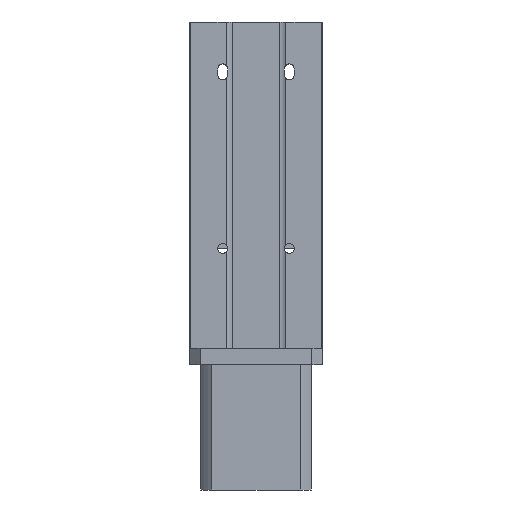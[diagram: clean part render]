
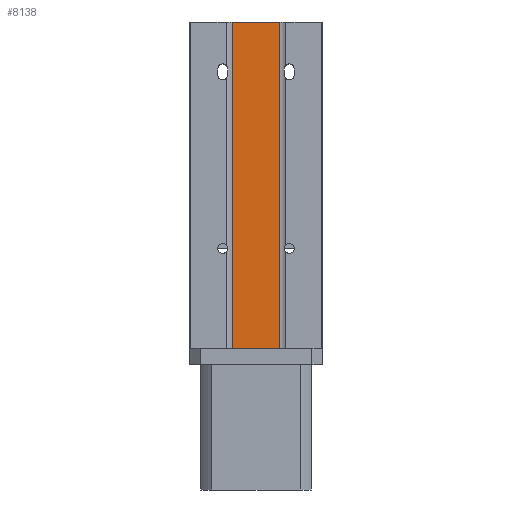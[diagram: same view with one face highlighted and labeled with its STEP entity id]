
A CAD part, front view. The second image highlights one B-rep face of the part: STEP entity #8138.
In plain terms, the highlighted planar face has unit normal (0, -1, 0).
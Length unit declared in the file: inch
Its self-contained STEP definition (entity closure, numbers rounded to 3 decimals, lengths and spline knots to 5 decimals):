
#520 = CARTESIAN_POINT ( 'NONE',  ( 0.36, 0.03, 0. ) ) ;
#1437 = PLANE ( 'NONE',  #11029 ) ;
#2236 = EDGE_CURVE ( 'NONE', #11339, #3104, #11034, .T. ) ;
#2248 = CARTESIAN_POINT ( 'NONE',  ( 0.36, 0.03, 4.90425 ) ) ;
#2389 = VECTOR ( 'NONE', #3702, 39.37008 ) ;
#2898 = EDGE_CURVE ( 'NONE', #10804, #11339, #10158, .T. ) ;
#3104 = VERTEX_POINT ( 'NONE', #520 ) ;
#3440 = ORIENTED_EDGE ( 'NONE', *, *, #5344, .F. ) ;
#3550 = DIRECTION ( 'NONE',  ( -1., 0., 0. ) ) ;
#3702 = DIRECTION ( 'NONE',  ( 1., 0., 0. ) ) ;
#5344 = EDGE_CURVE ( 'NONE', #7740, #3104, #7610, .T. ) ;
#5393 = EDGE_CURVE ( 'NONE', #10804, #7740, #12754, .T. ) ;
#6390 = VECTOR ( 'NONE', #10614, 39.37008 ) ;
#7026 = CARTESIAN_POINT ( 'NONE',  ( -0.36, 0.03, 0. ) ) ;
#7610 = LINE ( 'NONE', #2248, #8809 ) ;
#7619 = FACE_OUTER_BOUND ( 'NONE', #13201, .T. ) ;
#7740 = VERTEX_POINT ( 'NONE', #12163 ) ;
#8138 = ADVANCED_FACE ( 'NONE', ( #7619 ), #1437, .F. ) ;
#8470 = ORIENTED_EDGE ( 'NONE', *, *, #2898, .T. ) ;
#8713 = CARTESIAN_POINT ( 'NONE',  ( -0.36, 0.03, 4.90425 ) ) ;
#8809 = VECTOR ( 'NONE', #9784, 39.37008 ) ;
#8929 = VECTOR ( 'NONE', #9006, 39.37008 ) ;
#8950 = CARTESIAN_POINT ( 'NONE',  ( -0.36, 0.03, 0. ) ) ;
#9006 = DIRECTION ( 'NONE',  ( 0., 0., -1. ) ) ;
#9784 = DIRECTION ( 'NONE',  ( 0., 0., -1. ) ) ;
#9959 = ORIENTED_EDGE ( 'NONE', *, *, #2236, .T. ) ;
#10158 = LINE ( 'NONE', #13117, #8929 ) ;
#10614 = DIRECTION ( 'NONE',  ( 1., 0., 0. ) ) ;
#10804 = VERTEX_POINT ( 'NONE', #11745 ) ;
#11029 = AXIS2_PLACEMENT_3D ( 'NONE', #8713, #12909, #3550 ) ;
#11034 = LINE ( 'NONE', #7026, #2389 ) ;
#11339 = VERTEX_POINT ( 'NONE', #8950 ) ;
#11647 = CARTESIAN_POINT ( 'NONE',  ( -0.36, 0.03, 4.90425 ) ) ;
#11745 = CARTESIAN_POINT ( 'NONE',  ( -0.36, 0.03, 4.90425 ) ) ;
#12163 = CARTESIAN_POINT ( 'NONE',  ( 0.36, 0.03, 4.90425 ) ) ;
#12754 = LINE ( 'NONE', #11647, #6390 ) ;
#12909 = DIRECTION ( 'NONE',  ( 0., 1., 0. ) ) ;
#13081 = ORIENTED_EDGE ( 'NONE', *, *, #5393, .F. ) ;
#13117 = CARTESIAN_POINT ( 'NONE',  ( -0.36, 0.03, 4.90425 ) ) ;
#13201 = EDGE_LOOP ( 'NONE', ( #9959, #3440, #13081, #8470 ) ) ;
